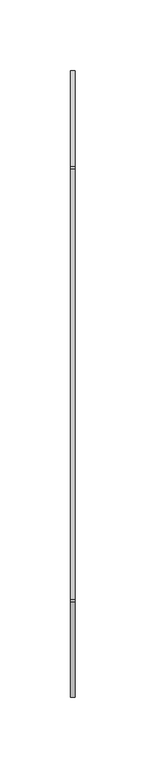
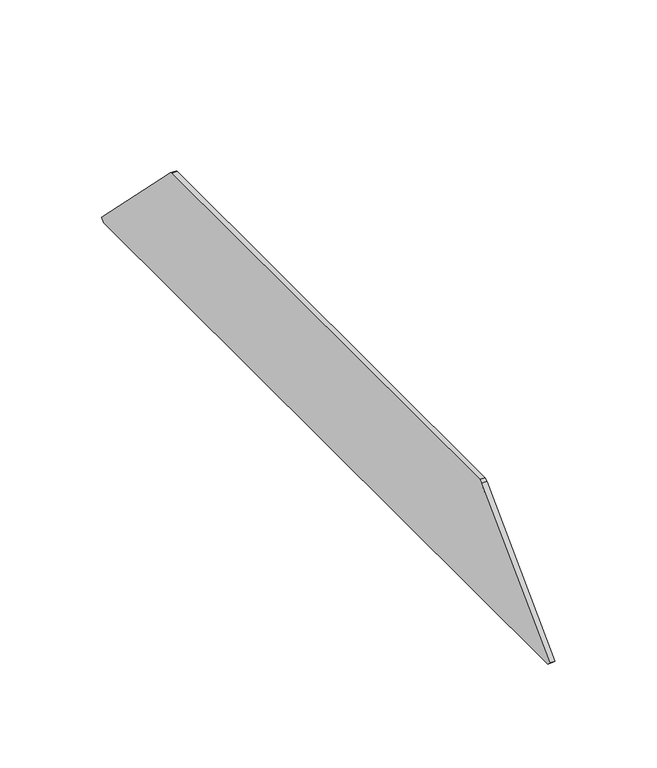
"""IFC4 building model written with IfcOpenShell, lengths in millimetres: cable carrier fitting geometry, Electrical_Installation_Hager_End-Piece : Electrical_Installation_Hager_End-Piece."""

from ifc_helpers import new_model, si_unit, point, frame, frame_2d, origin, place, context, project, spatial, polyline, circle_curve, trimmed, segment, composite_curve, outline, extrude, source, transform, mapped, element, save


def cable_carrier_fitting_c90adcf6(model_context):
    return source(origin(), model_context, "Body", "SweptSolid", [
        extrude(outline(composite_curve([segment(polyline([(220.7213203, -32.8786797), (218.6, -35.0), (-218.6, -35.0), (-220.7213203, -32.8786797), (-153.5142136, 34.3284271)]), True, "CONTINUOUS"), segment(trimmed(circle_curve(frame_2d((-151.0170755, 32.4593317)), 3.1191692), [point((-153.5142136, 34.3284271))], [point((-151.7124549, 35.5))], False, "CARTESIAN"), True, "CONTINUOUS"), segment(polyline([(-151.7124549, 35.5), (151.7124549, 35.5)]), True, "CONTINUOUS"), segment(trimmed(circle_curve(frame_2d((150.5004738, 31.6648514)), 4.0220969), [point((151.7124549, 35.5))], [point((153.5142136, 34.3284271))], False, "CARTESIAN"), True, "CONTINUOUS"), segment(polyline([(153.5142136, 34.3284271), (220.7213203, -32.8786797)]), True, "CONTINUOUS")], self_intersect=False)), frame((0.0, 0.0, 0.0), z_axis=(1.0, 0.0, 0.0), x_axis=(0.0, 1.0, 0.0)), (0.0, 0.0, 1.0), 3.0),
    ])


if __name__ == "__main__":
    model = new_model("IFC4")
    model_context = context("Model", 3, world=origin())
    ifc_project = project(units=[si_unit("LENGTHUNIT", "METRE", prefix="MILLI")], contexts=[model_context])
    site = spatial("IfcSite", under=ifc_project)
    building = spatial("IfcBuilding", under=site)
    placement = place(None, origin())
    cable_carrier_fitting_shape = cable_carrier_fitting_c90adcf6(model_context)
    element("IfcCableCarrierFitting", 1, ObjectType="Electrical_Installation_Hager_End-Piece : Electrical_Installation_Hager_End-Piece", at=placement, inside=building, context=model_context, shape_type="MappedRepresentation", body=[
        mapped(cable_carrier_fitting_shape, transform((0.0, 0.0, 0.0), x_axis=(1.0, 0.0, 0.0), y_axis=(0.0, 1.0, 0.0), z_axis=(0.0, 0.0, 1.0))),
    ])
    save(model, "model.ifc")
